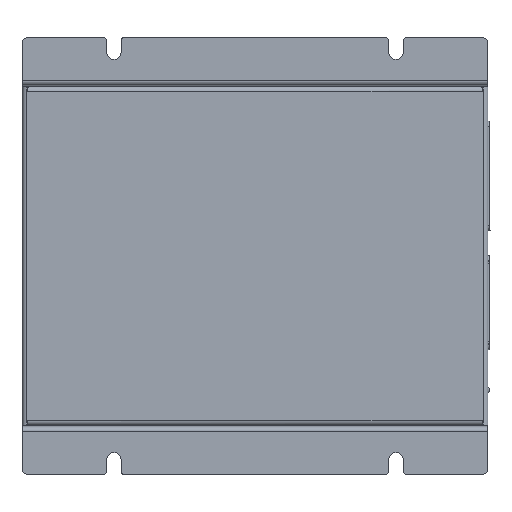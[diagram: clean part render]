
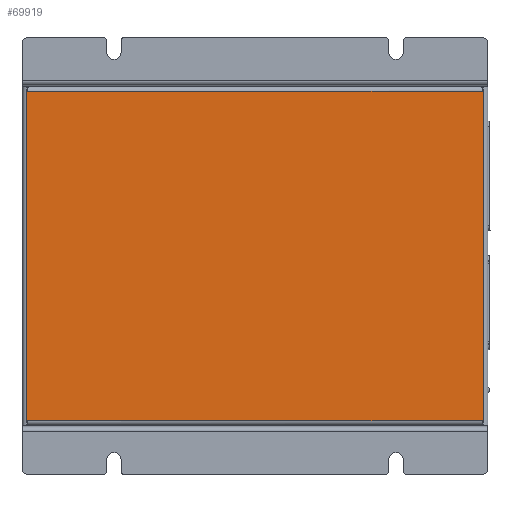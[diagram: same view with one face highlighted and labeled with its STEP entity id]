
A CAD part, front view. The second image highlights one B-rep face of the part: STEP entity #69919.
In plain terms, the highlighted planar face has unit normal (0, -1, 0) as drawn and (0, 1, 0) by its records, which use the part's own axes.
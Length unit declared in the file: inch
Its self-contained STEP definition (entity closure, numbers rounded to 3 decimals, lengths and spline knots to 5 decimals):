
#676 = ORIENTED_EDGE ( 'NONE', *, *, #106222, .T. ) ;
#13019 = LINE ( 'NONE', #99670, #90671 ) ;
#16329 = EDGE_CURVE ( 'NONE', #45980, #39457, #53627, .T. ) ;
#24842 = ORIENTED_EDGE ( 'NONE', *, *, #40288, .T. ) ;
#25957 = VERTEX_POINT ( 'NONE', #116528 ) ;
#29594 = DIRECTION ( 'NONE',  ( 1., 0., 0. ) ) ;
#39457 = VERTEX_POINT ( 'NONE', #92052 ) ;
#40288 = EDGE_CURVE ( 'NONE', #39457, #25957, #91885, .T. ) ;
#43759 = CARTESIAN_POINT ( 'NONE',  ( -3.50095, 0., 2.52594 ) ) ;
#44968 = DIRECTION ( 'NONE',  ( 0., 0., 1. ) ) ;
#45980 = VERTEX_POINT ( 'NONE', #43759 ) ;
#51087 = CARTESIAN_POINT ( 'NONE',  ( -3.50095, 0., -2.52594 ) ) ;
#53627 = LINE ( 'NONE', #80877, #110606 ) ;
#60309 = EDGE_CURVE ( 'NONE', #45980, #125554, #126155, .T. ) ;
#65311 = PLANE ( 'NONE',  #106375 ) ;
#68220 = EDGE_LOOP ( 'NONE', ( #24842, #676, #108274, #113776 ) ) ;
#69919 = ADVANCED_FACE ( 'NONE', ( #116456 ), #65311, .T. ) ;
#74586 = DIRECTION ( 'NONE',  ( 0., 1., 0. ) ) ;
#75441 = CARTESIAN_POINT ( 'NONE',  ( -3.575, 0., 2.6 ) ) ;
#76147 = CARTESIAN_POINT ( 'NONE',  ( -3.50095, 0., 2.6 ) ) ;
#80877 = CARTESIAN_POINT ( 'NONE',  ( -3.50095, 0., 2.52594 ) ) ;
#90671 = VECTOR ( 'NONE', #129785, 39.37008 ) ;
#91885 = LINE ( 'NONE', #117062, #110947 ) ;
#92052 = CARTESIAN_POINT ( 'NONE',  ( 3.50095, 0., 2.52594 ) ) ;
#99215 = VECTOR ( 'NONE', #107096, 39.37008 ) ;
#99670 = CARTESIAN_POINT ( 'NONE',  ( 3.50095, 0., -2.52594 ) ) ;
#106222 = EDGE_CURVE ( 'NONE', #25957, #125554, #13019, .T. ) ;
#106375 = AXIS2_PLACEMENT_3D ( 'NONE', #75441, #74586, #44968 ) ;
#107096 = DIRECTION ( 'NONE',  ( 0., 0., -1. ) ) ;
#108274 = ORIENTED_EDGE ( 'NONE', *, *, #60309, .F. ) ;
#110606 = VECTOR ( 'NONE', #29594, 39.37008 ) ;
#110947 = VECTOR ( 'NONE', #127228, 39.37008 ) ;
#113776 = ORIENTED_EDGE ( 'NONE', *, *, #16329, .T. ) ;
#116456 = FACE_OUTER_BOUND ( 'NONE', #68220, .T. ) ;
#116528 = CARTESIAN_POINT ( 'NONE',  ( 3.50095, 0., -2.52594 ) ) ;
#117062 = CARTESIAN_POINT ( 'NONE',  ( 3.50095, 0., 2.6 ) ) ;
#125554 = VERTEX_POINT ( 'NONE', #51087 ) ;
#126155 = LINE ( 'NONE', #76147, #99215 ) ;
#127228 = DIRECTION ( 'NONE',  ( 0., 0., -1. ) ) ;
#129785 = DIRECTION ( 'NONE',  ( -1., 0., 0. ) ) ;
